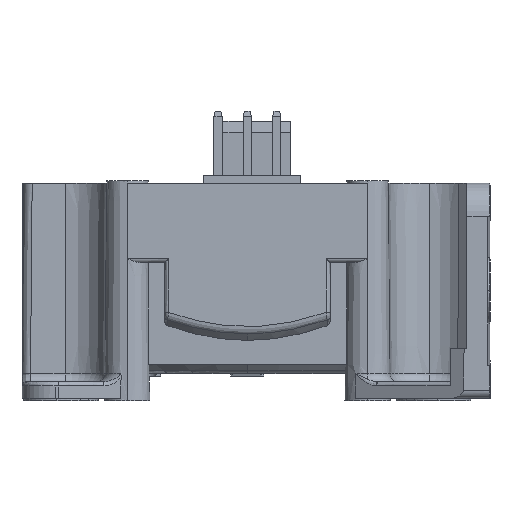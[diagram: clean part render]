
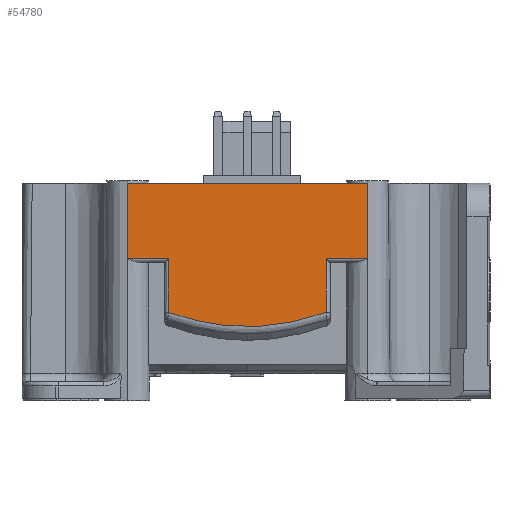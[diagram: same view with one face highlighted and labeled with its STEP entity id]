
A CAD part, left-side view. The second image highlights one B-rep face of the part: STEP entity #54780.
In plain terms, the highlighted planar face has unit normal (-1, 0, 0.009).
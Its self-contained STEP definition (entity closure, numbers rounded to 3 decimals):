
#50800=CARTESIAN_POINT('',(-26.178,-14.5,7.109));
#50810=DIRECTION('',(-0.009,0.,-1.));
#50820=VECTOR('',#50810,295.474);
#50830=LINE('',#50800,#50820);
#50840=CARTESIAN_POINT('',(-26.179,-14.5,7.004));
#50850=VERTEX_POINT('',#50840);
#50880=CARTESIAN_POINT('',(-26.1,-14.5,16.1));
#50890=VERTEX_POINT('',#50880);
#50900=EDGE_CURVE('',#50890,#50850,#50830,.T.);
#52680=CARTESIAN_POINT('',(-26.236,-9.5,0.486));
#52690=VERTEX_POINT('',#52680);
#52720=CARTESIAN_POINT('',(-26.179,-9.5,7.004));
#52730=DIRECTION('',(-0.009,0.,-1.));
#52740=VECTOR('',#52730,1.);
#52750=LINE('',#52720,#52740);
#52760=CARTESIAN_POINT('',(-26.179,-9.5,7.004));
#52770=VERTEX_POINT('',#52760);
#52780=EDGE_CURVE('',#52770,#52690,#52750,.T.);
#53620=CARTESIAN_POINT('',(-26.179,-9.5,7.004));
#53630=DIRECTION('',(0.,-1.,0.));
#53640=VECTOR('',#53630,1.);
#53650=LINE('',#53620,#53640);
#53660=EDGE_CURVE('',#52770,#50850,#53650,.T.);
#53770=CARTESIAN_POINT('',(-26.1,-14.5,16.1));
#53780=DIRECTION('',(-1.,0.,0.009));
#53790=DIRECTION('',(0.009,0.,1.));
#53800=AXIS2_PLACEMENT_3D('',#53770,#53780,#53790);
#53810=PLANE('',#53800);
#53820=ORIENTED_EDGE('',*,*,#52780,.F.);
#53830=CARTESIAN_POINT('',(-26.236,-9.5,0.486));
#53840=CARTESIAN_POINT('',(-26.236,-9.437,0.463)
);
#53850=CARTESIAN_POINT('',(-26.237,-9.373,0.441)
);
#53860=CARTESIAN_POINT('',(-26.237,-9.31,0.419)
);
#53870=CARTESIAN_POINT('',(-26.237,-9.243,0.396)
);
#53880=CARTESIAN_POINT('',(-26.237,-9.176,0.373)
);
#53890=CARTESIAN_POINT('',(-26.239,-8.62,0.185)
);
#53900=CARTESIAN_POINT('',(-26.24,-8.126,0.029
));
#53910=CARTESIAN_POINT('',(-26.242,-7.382,-0.186
));
#53920=CARTESIAN_POINT('',(-26.243,-7.133,-0.255
));
#53930=CARTESIAN_POINT('',(-26.244,-6.633,-0.386
));
#53940=CARTESIAN_POINT('',(-26.244,-6.382,-0.449))
;
#53950=CARTESIAN_POINT('',(-26.245,-5.879,-0.567
));
#53960=CARTESIAN_POINT('',(-26.246,-5.628,-0.623
));
#53970=CARTESIAN_POINT('',(-26.247,-5.123,-0.728))
;
#53980=CARTESIAN_POINT('',(-26.247,-4.87,-0.777)
);
#53990=CARTESIAN_POINT('',(-26.248,-4.362,-0.869
));
#54000=CARTESIAN_POINT('',(-26.248,-4.108,-0.911
));
#54010=CARTESIAN_POINT('',(-26.249,-3.598,-0.987
));
#54020=CARTESIAN_POINT('',(-26.249,-3.343,-1.022)
);
#54030=CARTESIAN_POINT('',(-26.25,-2.831,-1.084))
;
#54040=CARTESIAN_POINT('',(-26.25,-2.574,-1.112)
);
#54050=CARTESIAN_POINT('',(-26.251,-2.061,-1.158)
);
#54060=CARTESIAN_POINT('',(-26.251,-1.804,-1.178)
);
#54070=CARTESIAN_POINT('',(-26.251,-1.29,-1.21)
);
#54080=CARTESIAN_POINT('',(-26.251,-1.032,-1.221)
);
#54090=CARTESIAN_POINT('',(-26.251,-0.517,-1.237)
);
#54100=CARTESIAN_POINT('',(-26.251,-0.259,-1.241
));
#54110=CARTESIAN_POINT('',(-26.251,0.256,-1.241)
);
#54120=CARTESIAN_POINT('',(-26.251,0.514,-1.237)
);
#54130=CARTESIAN_POINT('',(-26.251,1.029,-1.221))
;
#54140=CARTESIAN_POINT('',(-26.251,1.287,-1.21))
;
#54150=CARTESIAN_POINT('',(-26.251,1.801,-1.178));
#54160=CARTESIAN_POINT('',(-26.251,2.058,-1.159));
#54170=CARTESIAN_POINT('',(-26.25,2.572,-1.112));
#54180=CARTESIAN_POINT('',(-26.25,2.828,-1.085))
;
#54190=CARTESIAN_POINT('',(-26.249,3.34,-1.023))
;
#54200=CARTESIAN_POINT('',(-26.249,3.595,-0.988))
;
#54210=CARTESIAN_POINT('',(-26.248,4.105,-0.911)
);
#54220=CARTESIAN_POINT('',(-26.248,4.359,-0.869)
);
#54230=CARTESIAN_POINT('',(-26.247,4.867,-0.778)
);
#54240=CARTESIAN_POINT('',(-26.247,5.12,-0.729)
);
#54250=CARTESIAN_POINT('',(-26.246,5.625,-0.624)
);
#54260=CARTESIAN_POINT('',(-26.245,5.876,-0.568)
);
#54270=CARTESIAN_POINT('',(-26.244,6.379,-0.45)
);
#54280=CARTESIAN_POINT('',(-26.244,6.63,-0.387)
);
#54290=CARTESIAN_POINT('',(-26.243,7.13,-0.256))
;
#54300=CARTESIAN_POINT('',(-26.242,7.379,-0.187)
);
#54310=CARTESIAN_POINT('',(-26.24,8.124,0.028)
);
#54320=CARTESIAN_POINT('',(-26.239,8.617,0.184));
#54330=CARTESIAN_POINT('',(-26.237,9.174,0.373))
;
#54340=CARTESIAN_POINT('',(-26.237,9.242,0.396))
;
#54350=CARTESIAN_POINT('',(-26.237,9.31,0.419))
;
#54360=CARTESIAN_POINT('',(-26.237,9.373,0.441));
#54370=CARTESIAN_POINT('',(-26.236,9.437,0.463))
;
#54380=CARTESIAN_POINT('',(-26.236,9.5,0.486));
#54390=B_SPLINE_CURVE_WITH_KNOTS('',3,(#53830,#53840,#53850,#53860,
#53870,#53880,#53890,#53900,#53910,#53920,#53930,#53940,#53950,#53960,
#53970,#53980,#53990,#54000,#54010,#54020,#54030,#54040,#54050,#54060,
#54070,#54080,#54090,#54100,#54110,#54120,#54130,#54140,#54150,#54160,
#54170,#54180,#54190,#54200,#54210,#54220,#54230,#54240,#54250,#54260,
#54270,#54280,#54290,#54300,#54310,#54320,#54330,#54340,#54350,#54360,
#54370,#54380),.UNSPECIFIED.,.F.,.F.,(4,3,2,2,2,2,2,2,2,2,2,2,2,2,2,2,2,
2,2,2,2,2,2,2,2,3,4),(51.807,51.918,52.133,
53.704,54.491,55.277,56.062,56.847,
57.633,58.419,59.205,59.991,60.777,
61.563,62.349,63.135,63.921,64.707,
65.493,66.278,67.064,67.849,68.635,
69.421,70.993,71.21,71.321),.UNSPECIFIED.);
#54400=CARTESIAN_POINT('',(-26.236,9.5,0.486));
#54410=VERTEX_POINT('',#54400);
#54420=EDGE_CURVE('',#52690,#54410,#54390,.T.);
#54430=ORIENTED_EDGE('',*,*,#54420,.F.);
#54440=CARTESIAN_POINT('',(-26.179,9.5,7.004));
#54450=DIRECTION('',(-0.009,0.,-1.));
#54460=VECTOR('',#54450,1.);
#54470=LINE('',#54440,#54460);
#54480=CARTESIAN_POINT('',(-26.179,9.5,7.004));
#54490=VERTEX_POINT('',#54480);
#54500=EDGE_CURVE('',#54490,#54410,#54470,.T.);
#54510=ORIENTED_EDGE('',*,*,#54500,.T.);
#54520=CARTESIAN_POINT('',(-26.179,14.5,7.004));
#54530=DIRECTION('',(0.,-1.,0.));
#54540=VECTOR('',#54530,1.);
#54550=LINE('',#54520,#54540);
#54560=CARTESIAN_POINT('',(-26.179,14.5,7.004));
#54570=VERTEX_POINT('',#54560);
#54580=EDGE_CURVE('',#54570,#54490,#54550,.T.);
#54590=ORIENTED_EDGE('',*,*,#54580,.T.);
#54600=CARTESIAN_POINT('',(-26.178,14.5,7.109));
#54610=DIRECTION('',(-0.009,0.,-1.));
#54620=VECTOR('',#54610,295.474);
#54630=LINE('',#54600,#54620);
#54640=CARTESIAN_POINT('',(-26.1,14.5,16.1));
#54650=VERTEX_POINT('',#54640);
#54660=EDGE_CURVE('',#54650,#54570,#54630,.T.);
#54670=ORIENTED_EDGE('',*,*,#54660,.T.);
#54680=CARTESIAN_POINT('',(-26.1,-14.5,16.1));
#54690=DIRECTION('',(0.,1.,0.));
#54700=VECTOR('',#54690,1.);
#54710=LINE('',#54680,#54700);
#54720=EDGE_CURVE('',#50890,#54650,#54710,.T.);
#54730=ORIENTED_EDGE('',*,*,#54720,.T.);
#54740=ORIENTED_EDGE('',*,*,#50900,.F.);
#54750=ORIENTED_EDGE('',*,*,#53660,.T.);
#54760=EDGE_LOOP('',(#54750,#54740,#54730,#54670,#54590,#54510,#54430,
#53820));
#54770=FACE_OUTER_BOUND('',#54760,.T.);
#54780=ADVANCED_FACE('',(#54770),#53810,.T.);
